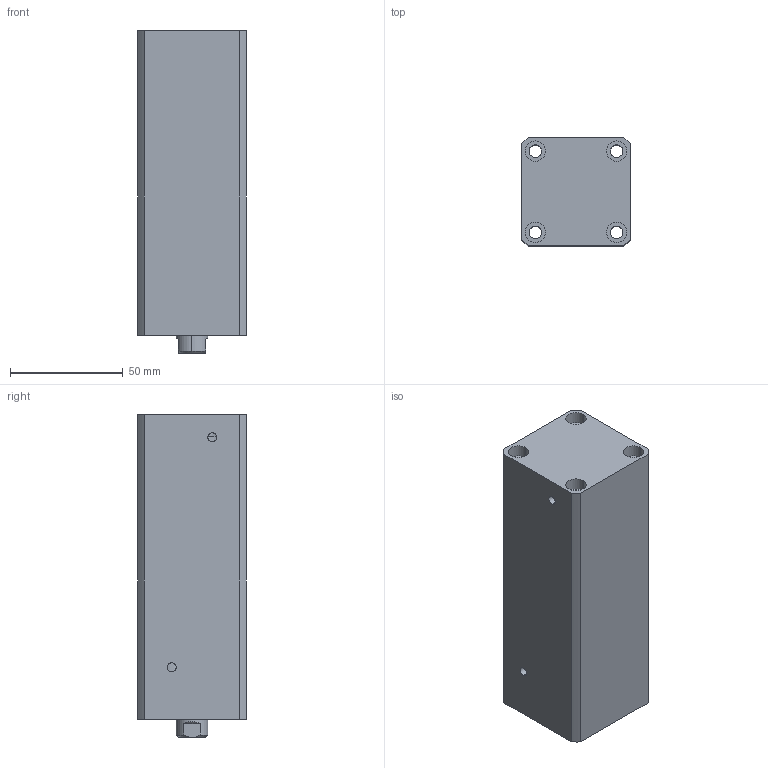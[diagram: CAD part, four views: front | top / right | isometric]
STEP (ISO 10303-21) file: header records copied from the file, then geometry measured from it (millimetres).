
FILE_DESCRIPTION (( 'STEP AP214' ), '1' );
FILE_NAME ('chtb-sdma25x90n_asm.STEP', '2018-05-22T07:13:14', ( 'Windows' ), ( 'Microsoft' ), 'SwSTEP 2.0', 'SolidWorks 2015', '' );
FILE_SCHEMA (( 'AUTOMOTIVE_DESIGN' ));
Length unit declared in the file: millimetre
Products named in the file (4): CHTB-SDMA25X90NHSG; CHTB-SDMA25X90NBT; CHTB-25QG; chtb-sdma25x90n_asm
Assembly tree (3 placements, depth 2):
  chtb-sdma25x90n_asm
    CHTB-25QG
    CHTB-SDMA25X90NBT
    CHTB-SDMA25X90NHSG
Bounding box: 48 x 48 x 143 mm (x, y, z)
Volume: 261135.4 mm3; surface area: 64748.2 mm2
Topology: 3 solids, 3 shells, 142 faces, 379 edges, 257 vertices
Faces by surface type: cylinder 89, plane 34, bspline 10, cone 9
Entity records: 8020 total; most frequent: CARTESIAN_POINT 4393, ORIENTED_EDGE 746, DIRECTION 661, EDGE_CURVE 373, AXIS2_PLACEMENT_3D 272, VERTEX_POINT 257, EDGE_LOOP 180, FACE_OUTER_BOUND 142
